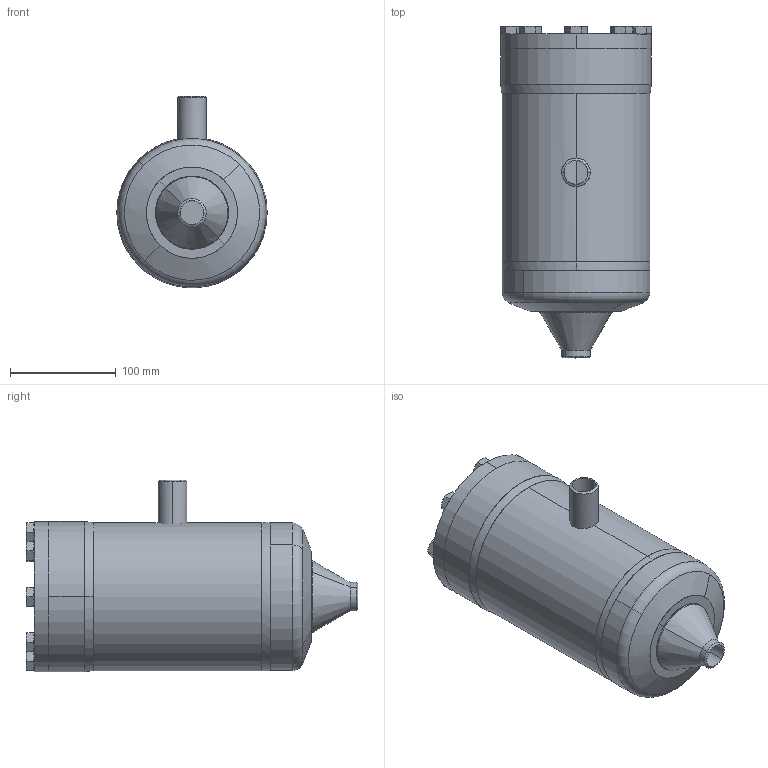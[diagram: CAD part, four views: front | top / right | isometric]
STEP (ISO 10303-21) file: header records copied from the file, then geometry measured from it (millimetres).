
FILE_DESCRIPTION (( 'STEP AP214' ), '1' );
FILE_NAME ('FT56700D11-DN20-1_PS40.STEP', '2010-09-13T08:23:21', ( 'Eckhard Grams' ), ( 'AWP Kälte Klima Armaturen GmbH' ), 'SwSTEP 2.0', 'SolidWorks 2002296', '' );
FILE_SCHEMA (( 'AUTOMOTIVE_DESIGN' ));
Length unit declared in the file: millimetre
Products named in the file (14): FT56700D11-DN20-1_PS40; Geh-kpl-FT-DN20-1_Standard; FT Boden-Führungsrohr DN20_PS25_Standard; bead-Bo-Fü-20-50_Standard; Führungsrohr-FT-DN20-50_DN 20; Boden-FT-DN20-80_DN 20 bis 50-4 PN 40; Gehäuse-FT-DN20-50_PS40_20-1; bead20-Geh-Ko1_Standard; bead20-Geh-Bo1_Standard; Kopfstück-FT-DN20-50_PS40_Standard; Rohrstutzen-FT-DN20-80_DN 20; FT Deckel-Schrauben-DN20-50_PS25_Standard; Deckel56700E15-DN20-50_PS40_Standard; Sechskantschraube-DIN933_M12x 30
Assembly tree (20 placements, depth 4):
  FT56700D11-DN20-1_PS40
    Geh-kpl-FT-DN20-1_Standard
      FT Boden-Führungsrohr DN20_PS25_Standard
        Boden-FT-DN20-80_DN 20 bis 50-4 PN 40
        Führungsrohr-FT-DN20-50_DN 20
        bead-Bo-Fü-20-50_Standard
      Gehäuse-FT-DN20-50_PS40_20-1
      Kopfstück-FT-DN20-50_PS40_Standard
      bead20-Geh-Bo1_Standard
      bead20-Geh-Ko1_Standard
      Rohrstutzen-FT-DN20-80_DN 20
    FT Deckel-Schrauben-DN20-50_PS25_Standard
      Sechskantschraube-DIN933_M12x 30  x8
      Deckel56700E15-DN20-50_PS40_Standard
Bounding box: 142.78 x 313.28 x 181 mm (x, y, z)
Volume: 1325475.8 mm3; surface area: 374755.9 mm2
Topology: 17 solids, 17 shells, 401 faces, 878 edges, 518 vertices
Faces by surface type: cone 170, cylinder 109, plane 98, bspline 12, torus 8, sphere 4
Entity records: 11155 total; most frequent: CARTESIAN_POINT 5348, DIRECTION 1150, ORIENTED_EDGE 996, EDGE_CURVE 498, AXIS2_PLACEMENT_3D 494, VERTEX_POINT 308, EDGE_LOOP 280, CIRCLE 254
